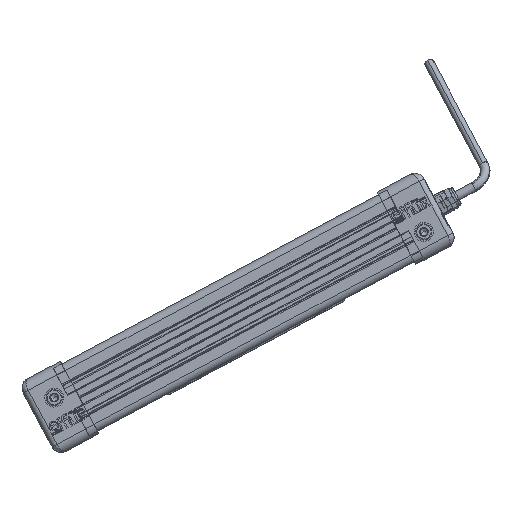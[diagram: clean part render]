
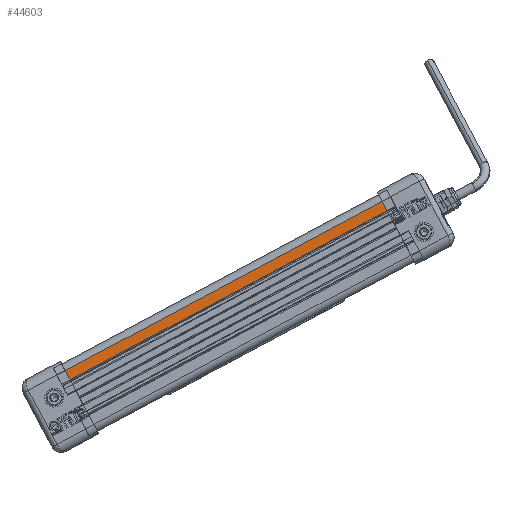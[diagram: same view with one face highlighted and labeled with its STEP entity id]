
A CAD part, front view. The second image highlights one B-rep face of the part: STEP entity #44603.
In plain terms, the highlighted planar face has unit normal (0, -1, 0) as drawn and (-1, 0, 0) by its records, which use the part's own axes.
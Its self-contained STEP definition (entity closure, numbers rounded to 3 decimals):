
#996 = DIRECTION ( 'NONE',  ( 0., 1., 0. ) ) ;
#1576 = FACE_OUTER_BOUND ( 'NONE', #48253, .T. ) ;
#1818 = VECTOR ( 'NONE', #34201, 1000. ) ;
#2939 = ORIENTED_EDGE ( 'NONE', *, *, #53402, .F. ) ;
#4392 = VERTEX_POINT ( 'NONE', #35373 ) ;
#5143 = VECTOR ( 'NONE', #36051, 1000. ) ;
#7656 = VECTOR ( 'NONE', #43245, 1000. ) ;
#8224 = ORIENTED_EDGE ( 'NONE', *, *, #33176, .T. ) ;
#9494 = CARTESIAN_POINT ( 'NONE',  ( -9., 16., 199. ) ) ;
#12334 = VERTEX_POINT ( 'NONE', #18168 ) ;
#13247 = AXIS2_PLACEMENT_3D ( 'NONE', #27858, #42174, #996 ) ;
#18168 = CARTESIAN_POINT ( 'NONE',  ( -9., 10.5, 0. ) ) ;
#19476 = CARTESIAN_POINT ( 'NONE',  ( -9., 16., 199. ) ) ;
#21885 = ORIENTED_EDGE ( 'NONE', *, *, #26487, .F. ) ;
#22884 = CARTESIAN_POINT ( 'NONE',  ( -9., 16., 199. ) ) ;
#22902 = LINE ( 'NONE', #9494, #5143 ) ;
#26487 = EDGE_CURVE ( 'NONE', #36332, #12334, #38544, .T. ) ;
#27858 = CARTESIAN_POINT ( 'NONE',  ( -9., 16., 199. ) ) ;
#30439 = CARTESIAN_POINT ( 'NONE',  ( -9., 10.5, 199. ) ) ;
#33176 = EDGE_CURVE ( 'NONE', #47980, #4392, #22902, .T. ) ;
#33786 = LINE ( 'NONE', #19476, #49886 ) ;
#34201 = DIRECTION ( 'NONE',  ( 0., 0., -1. ) ) ;
#35029 = CARTESIAN_POINT ( 'NONE',  ( -9., 16., 0. ) ) ;
#35373 = CARTESIAN_POINT ( 'NONE',  ( -9., 16., 0. ) ) ;
#36051 = DIRECTION ( 'NONE',  ( 0., 0., -1. ) ) ;
#36332 = VERTEX_POINT ( 'NONE', #30439 ) ;
#36911 = PLANE ( 'NONE',  #13247 ) ;
#38142 = DIRECTION ( 'NONE',  ( 0., -1., 0. ) ) ;
#38535 = LINE ( 'NONE', #35029, #7656 ) ;
#38544 = LINE ( 'NONE', #56427, #1818 ) ;
#42174 = DIRECTION ( 'NONE',  ( 1., 0., 0. ) ) ;
#43245 = DIRECTION ( 'NONE',  ( 0., -1., 0. ) ) ;
#44603 = ADVANCED_FACE ( 'NONE', ( #1576 ), #36911, .F. ) ;
#47012 = ORIENTED_EDGE ( 'NONE', *, *, #47069, .T. ) ;
#47069 = EDGE_CURVE ( 'NONE', #4392, #12334, #38535, .T. ) ;
#47980 = VERTEX_POINT ( 'NONE', #22884 ) ;
#48253 = EDGE_LOOP ( 'NONE', ( #47012, #21885, #2939, #8224 ) ) ;
#49886 = VECTOR ( 'NONE', #38142, 1000. ) ;
#53402 = EDGE_CURVE ( 'NONE', #47980, #36332, #33786, .T. ) ;
#56427 = CARTESIAN_POINT ( 'NONE',  ( -9., 10.5, 199. ) ) ;
